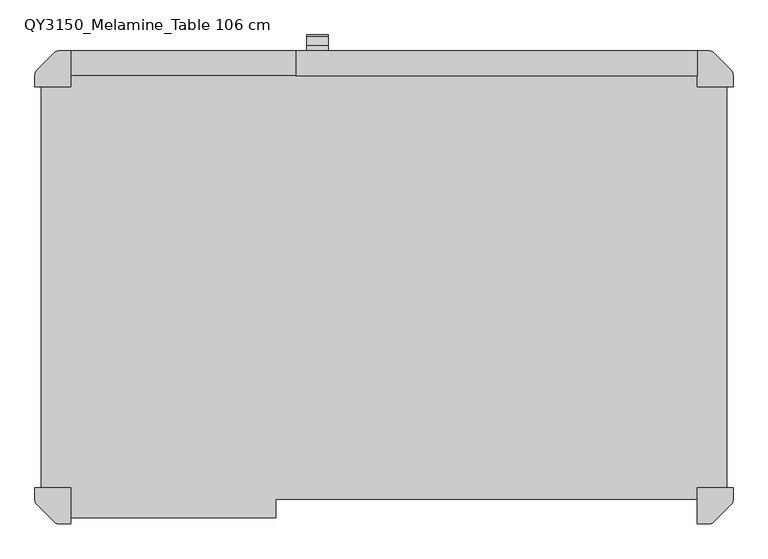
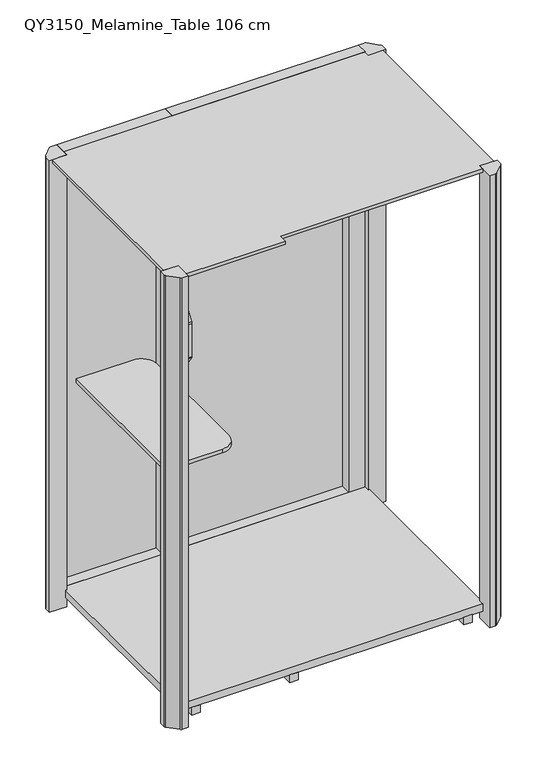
"""IFC4 building model written with IfcOpenShell, lengths in millimetres: furniture geometry, Qyos_150 : QY3150_Melamine_Table 106 cm."""

from ifc_helpers import new_model, si_unit, point, frame, frame_2d, origin, origin_with_axes, place, context, project, spatial, polyline, circle_curve, trimmed, segment, composite_curve, outline, extrude, source, transform, mapped, element, save
from ifc_brep_helpers import plane_surface, cylinder_surface, revolved_surface, advanced_brep


def qy3150_melamine_table_106_cm_0cf5cc71(model_context):
    return source(origin(), model_context, "Body", "SolidModel", [
        extrude(outline(composite_curve([segment(polyline([(-701.0, 358.0), (-441.0, 358.0)]), True, "CONTINUOUS"), segment(trimmed(circle_curve(frame_2d((-441.0, 288.0)), 70.0), [point((-441.0, 358.0))], [point((-371.0, 288.0))], False, "CARTESIAN"), True, "CONTINUOUS"), segment(polyline([(-371.0, 288.0), (-371.0, -288.0)]), True, "CONTINUOUS"), segment(trimmed(circle_curve(frame_2d((-441.0, -288.0)), 70.0), [point((-371.0, -288.0))], [point((-441.0, -358.0))], False, "CARTESIAN"), True, "CONTINUOUS"), segment(polyline([(-441.0, -358.0), (-701.0, -358.0), (-701.0, 358.0)]), True, "CONTINUOUS")], self_intersect=False)), frame((0.0, 0.0, 1147.0), z_axis=(0.0, 0.0, 1.0), x_axis=(1.0, 0.0, 0.0)), (0.0, 0.0, 1.0), 19.0),
        advanced_brep(
        [(-124.0102042, 525.6314016, 980.9779398), (-124.0102042, 537.1968679, 985.7672556), (-124.0102042, 557.5610872, 1017.1254034), (-124.0102042, 560.5, 1025.2), (-124.0102042, 560.5, 1186.1919919), (-124.0102042, 557.7819627, 1194.5572505), (-124.0102042, 537.162848, 1226.3079029), (-124.0102042, 525.6314016, 1230.9669096), (-124.0102042, 525.6314016, 1224.0702851), (-124.0102042, 536.4262787, 1221.4167571), (-124.0102042, 553.2020658, 1196.5456299), (-124.0102042, 557.6320377, 1173.7554001), (-124.0102042, 557.6320377, 1028.7554001), (-124.0102042, 555.0438473, 1019.0961419), (-124.0102042, 537.9469969, 991.7354618), (-124.0102042, 525.6314016, 985.9647191), (-171.9580619, 525.6314016, 1230.9669096), (-171.9580619, 537.162848, 1226.3079029), (-171.9580619, 557.7819627, 1194.5572505), (-171.9580619, 560.5, 1186.1919919), (-171.9580619, 560.5, 1025.2), (-171.9580619, 557.5610872, 1017.1254034), (-171.9580619, 537.1968679, 985.7672556), (-171.9580619, 525.6314016, 980.9779398), (-169.2887865, 525.6314016, 985.9647191), (-169.2887865, 525.6314016, 1224.0702851), (-169.2887865, 537.9469969, 991.7354618), (-169.2887865, 555.0438473, 1019.0961419), (-169.2887865, 557.6320377, 1028.7554001), (-169.2887865, 557.6320377, 1173.7554001), (-169.2887865, 553.2020658, 1196.5456299), (-169.2887865, 536.4262787, 1221.4167571)],
        [
            (0, 1, circle_curve(frame((-124.0102042, 527.6091735, 992.560998), z_axis=(1.0, 0.0, 0.0), x_axis=(0.0, 1.0, 0.0)), 11.7506945)),
            (1, 2, circle_curve(frame((-124.0102042, 160.5394908, 1252.6628295), z_axis=(1.0, 0.0, 0.0), x_axis=(0.0, 1.0, 0.0)), 461.6319174)),
            (2, 3, circle_curve(frame((-124.0102042, 513.525418, 1037.7252129), z_axis=(1.0, 0.0, 0.0), x_axis=(0.0, 1.0, 0.0)), 48.615762)),
            (3, 4),
            (4, 5, circle_curve(frame((-124.0102042, 541.7589098, 1184.7268438), z_axis=(1.0, 0.0, 0.0), x_axis=(0.0, 1.0, 0.0)), 18.7982744)),
            (5, 6, circle_curve(frame((-124.0102042, -71.0762231, 808.7424006), z_axis=(1.0, 0.0, 0.0), x_axis=(0.0, 1.0, 0.0)), 737.777552)),
            (6, 7, circle_curve(frame((-124.0102042, 527.4087289, 1218.7657801), z_axis=(1.0, 0.0, 0.0), x_axis=(0.0, 1.0, 0.0)), 12.3299009)),
            (7, 8),
            (8, 9, circle_curve(frame((-124.0102042, 525.6314016, 1200.7860796), z_axis=(-1.0, 0.0, 0.0), x_axis=(0.0, 1.0, 0.0)), 23.2842055)),
            (9, 10, circle_curve(frame((-124.0102042, 812.3576761, 1389.4415655), z_axis=(1.0, 0.0, 0.0), x_axis=(0.0, 1.0, 0.0)), 323.0641922)),
            (10, 11, circle_curve(frame((-124.0102042, 496.7942676, 1173.7554001), z_axis=(-1.0, 0.0, 0.0), x_axis=(0.0, 1.0, 0.0)), 60.8377701)),
            (11, 12),
            (12, 13, circle_curve(frame((-124.0102042, 540.0644692, 1028.286235), z_axis=(-1.0, 0.0, 0.0), x_axis=(0.0, 1.0, 0.0)), 17.5738323)),
            (13, 14, circle_curve(frame((-124.0102042, -1120.4570487, 2047.0433119), z_axis=(-1.0, 0.0, 0.0), x_axis=(0.0, 1.0, 0.0)), 1965.7005461)),
            (14, 15, circle_curve(frame((-124.0102042, 525.4805644, 1002.3136249), z_axis=(-1.0, 0.0, 0.0), x_axis=(0.0, 1.0, 0.0)), 16.3496016)),
            (15, 0),
            (16, 17, circle_curve(frame((-171.9580619, 527.4087289, 1218.7657801), z_axis=(-1.0, 0.0, 0.0), x_axis=(0.0, 1.0, 0.0)), 12.3299009)),
            (17, 18, circle_curve(frame((-171.9580619, -71.0762231, 808.7424006), z_axis=(-1.0, 0.0, 0.0), x_axis=(0.0, 1.0, 0.0)), 737.777552)),
            (18, 19, circle_curve(frame((-171.9580619, 541.7589098, 1184.7268438), z_axis=(-1.0, 0.0, 0.0), x_axis=(0.0, 1.0, 0.0)), 18.7982744)),
            (19, 20),
            (20, 21, circle_curve(frame((-171.9580619, 513.525418, 1037.7252129), z_axis=(-1.0, 0.0, 0.0), x_axis=(0.0, 1.0, 0.0)), 48.615762)),
            (21, 22, circle_curve(frame((-171.9580619, 160.5394908, 1252.6628295), z_axis=(-1.0, 0.0, 0.0), x_axis=(0.0, 1.0, 0.0)), 461.6319174)),
            (22, 23, circle_curve(frame((-171.9580619, 527.6091735, 992.560998), z_axis=(-1.0, 0.0, 0.0), x_axis=(0.0, 1.0, 0.0)), 11.7506945)),
            (23, 16),
            (23, 0),
            (15, 24),
            (24, 25),
            (25, 8),
            (7, 16),
            (22, 1),
            (21, 2),
            (20, 3),
            (19, 4),
            (18, 5),
            (17, 6),
            (26, 27, circle_curve(frame((-169.2887865, -1120.4570487, 2047.0433119), z_axis=(1.0, 0.0, 0.0), x_axis=(0.0, 1.0, 0.0)), 1965.7005461)),
            (27, 28, circle_curve(frame((-169.2887865, 540.0644692, 1028.286235), z_axis=(1.0, 0.0, 0.0), x_axis=(0.0, 1.0, 0.0)), 17.5738323)),
            (28, 29),
            (29, 30, circle_curve(frame((-169.2887865, 496.7942676, 1173.7554001), z_axis=(1.0, 0.0, 0.0), x_axis=(0.0, 1.0, 0.0)), 60.8377701)),
            (30, 31, circle_curve(frame((-169.2887865, 812.3576761, 1389.4415655), z_axis=(-1.0, 0.0, 0.0), x_axis=(0.0, 1.0, 0.0)), 323.0641922)),
            (31, 25, circle_curve(frame((-169.2887865, 525.6314016, 1200.7860796), z_axis=(1.0, 0.0, 0.0), x_axis=(0.0, 1.0, 0.0)), 23.2842055)),
            (24, 26, circle_curve(frame((-169.2887865, 525.4805644, 1002.3136249), z_axis=(1.0, 0.0, 0.0), x_axis=(0.0, 1.0, 0.0)), 16.3496016)),
            (14, 26),
            (13, 27),
            (12, 28),
            (11, 29),
            (10, 30),
            (9, 31),
        ],
        [
            plane_surface(frame((-124.0102042, 525.6314016, 980.9779398), z_axis=(1.0, 0.0, 0.0), x_axis=(0.0, 0.0, -1.0))),
            plane_surface(frame((-171.9580619, 525.6314016, 980.9779398), z_axis=(-1.0, 0.0, 0.0), x_axis=(0.0, 0.0, 1.0))),
            plane_surface(frame((-124.0102042, 525.6314016, 1230.9669096), z_axis=(0.0, -1.0, 0.0), x_axis=(-1.0, 0.0, 0.0))),
            cylinder_surface(frame((-171.9580619, 527.6091735, 992.560998), z_axis=(1.0, 0.0, 0.0), x_axis=(0.0, 1.0, 0.0)), 11.7506945),
            cylinder_surface(frame((-171.9580619, 160.5394908, 1252.6628295), z_axis=(1.0, 0.0, 0.0), x_axis=(0.0, 1.0, 0.0)), 461.6319174),
            cylinder_surface(frame((-171.9580619, 513.525418, 1037.7252129), z_axis=(1.0, 0.0, 0.0), x_axis=(0.0, 1.0, 0.0)), 48.615762),
            plane_surface(frame((-124.0102042, 560.5, 1025.2), z_axis=(0.0, 1.0, 0.0), x_axis=(-1.0, 0.0, 0.0))),
            cylinder_surface(frame((-171.9580619, 541.7589098, 1184.7268438), z_axis=(1.0, 0.0, 0.0), x_axis=(0.0, 1.0, 0.0)), 18.7982744),
            cylinder_surface(frame((-171.9580619, -71.0762231, 808.7424006), z_axis=(1.0, 0.0, 0.0), x_axis=(0.0, 1.0, 0.0)), 737.777552),
            cylinder_surface(frame((-171.9580619, 527.4087289, 1218.7657801), z_axis=(1.0, 0.0, 0.0), x_axis=(0.0, 1.0, 0.0)), 12.3299009),
            plane_surface(frame((-169.2887865, 511.7185794, 1224.0702851), z_axis=(1.0, 0.0, 0.0), x_axis=(0.0, 0.0, 1.0))),
            revolved_surface(polyline([(-124.0102042, 541.8301660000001, 1002.3136249), (-169.2887865, 541.8301660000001, 1002.3136249)]), (-169.2887865, 525.4805644, 1002.3136249), (1.0, 0.0, 0.0)),
            revolved_surface(polyline([(-124.0102042, 845.2434974, 2047.0433119), (-169.2887865, 845.2434974, 2047.0433119)]), (-169.2887865, -1120.4570487, 2047.0433119), (1.0, 0.0, 0.0)),
            revolved_surface(polyline([(-124.0102042, 557.6383015, 1028.286235), (-169.2887865, 557.6383015, 1028.286235)]), (-169.2887865, 540.0644692, 1028.286235), (1.0, 0.0, 0.0)),
            plane_surface(frame((-116.8041752, 557.6320377, 1028.7554001), z_axis=(0.0, -1.0, 0.0), x_axis=(-1.0, 0.0, 0.0))),
            revolved_surface(polyline([(-124.0102042, 557.6320377, 1173.7554001), (-169.2887865, 557.6320377, 1173.7554001)]), (-169.2887865, 496.7942676, 1173.7554001), (1.0, 0.0, 0.0)),
            cylinder_surface(frame((-169.2887865, 812.3576761, 1389.4415655), z_axis=(-1.0, 0.0, 0.0), x_axis=(0.0, 1.0, 0.0)), 323.0641922),
            revolved_surface(polyline([(-124.0102042, 548.9156071, 1200.7860796), (-169.2887865, 548.9156071, 1200.7860796)]), (-169.2887865, 525.6314016, 1200.7860796), (1.0, 0.0, 0.0)),
        ],
        [
            (0, [[1, 2, 3, 4, 5, 6, 7, 8, 9, 10, 11, 12, 13, 14, 15, 16]]),
            (1, [[17, 18, 19, 20, 21, 22, 23, 24]]),
            (2, [[-24, 25, -16, 26, 27, 28, -8, 29]]),
            (3, [[-1, -25, -23, 30]]),
            (4, [[-2, -30, -22, 31]]),
            (5, [[-3, -31, -21, 32]]),
            (6, [[-4, -32, -20, 33]]),
            (7, [[-5, -33, -19, 34]]),
            (8, [[-6, -34, -18, 35]]),
            (9, [[-7, -35, -17, -29]]),
            (10, [[36, 37, 38, 39, 40, 41, -27, 42]]),
            (11, [[-42, -26, -15, 43]]),
            (12, [[-36, -43, -14, 44]]),
            (13, [[-37, -44, -13, 45]]),
            (14, [[-38, -45, -12, 46]]),
            (15, [[-39, -46, -11, 47]]),
            (16, [[-40, -47, -10, 48]]),
            (17, [[-41, -48, -9, -28]]),
        ],
    ),
        extrude(outline(composite_curve([segment(polyline([(1230.9669096, -127.0104804), (1230.9669096, -166.9737674)]), True, "CONTINUOUS"), segment(trimmed(circle_curve(frame_2d((1225.973762, -166.9737674)), 4.9931477), [point((1230.9669096, -166.9737674))], [point((1225.973762, -171.966915))], False, "CARTESIAN"), True, "CONTINUOUS"), segment(polyline([(1225.973762, -171.966915), (985.9710874, -171.966915)]), True, "CONTINUOUS"), segment(trimmed(circle_curve(frame_2d((985.9710874, -166.9737674)), 4.9931477), [point((985.9710874, -171.966915))], [point((980.9779398, -166.9737674))], False, "CARTESIAN"), True, "CONTINUOUS"), segment(polyline([(980.9779398, -166.9737674), (980.9779398, -127.008286)]), True, "CONTINUOUS"), segment(trimmed(circle_curve(frame_2d((983.9760215, -127.008286)), 2.9980817), [point((980.9779398, -127.008286))], [point((983.9760215, -124.0102042))], False, "CARTESIAN"), True, "CONTINUOUS"), segment(polyline([(983.9760215, -124.0102042), (985.9777208, -124.0102042)]), True, "CONTINUOUS"), segment(trimmed(circle_curve(frame_2d((985.9777208, -126.2607973)), 2.2505931), [point((985.9777208, -124.0102042))], [point((988.1941223, -125.8699859))], False, "CARTESIAN"), True, "CONTINUOUS"), segment(trimmed(circle_curve(frame_2d((1002.686839, -125.065358)), 14.5150358), [point((988.1941223, -125.8699859))], [point((999.6402401, -139.2570632))], True, "CARTESIAN"), True, "CONTINUOUS"), segment(trimmed(circle_curve(frame_2d((999.3564071, -147.27634)), 8.0242982), [point((999.6402401, -139.2570632))], [point((1007.3803501, -147.3518321))], False, "CARTESIAN"), True, "CONTINUOUS"), segment(trimmed(circle_curve(frame_2d((984.8527266, -150.8883916)), 22.803532), [point((1007.3803501, -147.3518321))], [point((1007.3098217, -154.8481834))], False, "CARTESIAN"), True, "CONTINUOUS"), segment(trimmed(circle_curve(frame_2d((1018.7344643, -156.8626561)), 11.600886), [point((1007.3098217, -154.8481834))], [point((1018.7344643, -168.4635421))], True, "CARTESIAN"), True, "CONTINUOUS"), segment(polyline([(1018.7344643, -168.4635421), (1193.2103851, -168.4635421)]), True, "CONTINUOUS"), segment(trimmed(circle_curve(frame_2d((1193.2103851, -156.4965825)), 11.9669596), [point((1193.2103851, -168.4635421))], [point((1205.1773447, -156.4965825))], True, "CARTESIAN"), True, "CONTINUOUS"), segment(polyline([(1205.1773447, -156.4965825), (1205.1773447, -147.9646776)]), True, "CONTINUOUS"), segment(trimmed(circle_curve(frame_2d((1213.8757406, -147.9646776)), 8.6983958), [point((1205.1773447, -147.9646776))], [point((1212.36528, -139.3984299))], False, "CARTESIAN"), True, "CONTINUOUS"), segment(trimmed(circle_curve(frame_2d((1209.9037954, -125.4386571)), 14.1751248), [point((1212.36528, -139.3984299))], [point((1224.0702851, -125.9333618))], True, "CARTESIAN"), True, "CONTINUOUS"), segment(trimmed(circle_curve(frame_2d((1225.9934427, -125.9333618)), 1.9231576), [point((1224.0702851, -125.9333618))], [point((1225.9934427, -124.0102042))], False, "CARTESIAN"), True, "CONTINUOUS"), segment(polyline([(1225.9934427, -124.0102042), (1227.9666334, -124.0102042)]), True, "CONTINUOUS"), segment(trimmed(circle_curve(frame_2d((1227.9666334, -127.0104804)), 3.0002762), [point((1227.9666334, -124.0102042))], [point((1230.9669096, -127.0104804))], False, "CARTESIAN"), True, "CONTINUOUS")], self_intersect=False)), frame((0.0, 525.0, 0.0), z_axis=(0.0, 1.0, 0.0), x_axis=(0.0, 0.0, 1.0)), (0.0, 0.0, 1.0), 0.6314016),
        advanced_brep(
        [(-124.0102042, 469.3642803, 980.9779398), (-124.0102042, 469.3642803, 985.9647191), (-124.0102042, 457.048685, 991.7354618), (-124.0102042, 439.9518346, 1019.0961419), (-124.0102042, 437.3636441, 1028.7554001), (-124.0102042, 437.3636441, 1173.7554001), (-124.0102042, 441.7936161, 1196.5456299), (-124.0102042, 458.5694032, 1221.4167571), (-124.0102042, 469.3642803, 1224.0702851), (-124.0102042, 469.3642803, 1230.9669096), (-124.0102042, 457.8328339, 1226.3079029), (-124.0102042, 437.2137192, 1194.5572505), (-124.0102042, 434.4956819, 1186.1919919), (-124.0102042, 434.4956819, 1025.2), (-124.0102042, 437.4345947, 1017.1254034), (-124.0102042, 457.798814, 985.7672556), (-171.9580619, 469.3642803, 1230.9669096), (-171.9580619, 469.3642803, 980.9779398), (-171.9580619, 457.798814, 985.7672556), (-171.9580619, 437.4345947, 1017.1254034), (-171.9580619, 434.4956819, 1025.2), (-171.9580619, 434.4956819, 1186.1919919), (-171.9580619, 437.2137192, 1194.5572505), (-171.9580619, 457.8328339, 1226.3079029), (-169.2887865, 469.3642803, 1224.0702851), (-169.2887865, 469.3642803, 985.9647191), (-169.2887865, 457.048685, 991.7354618), (-169.2887865, 458.5694032, 1221.4167571), (-169.2887865, 441.7936161, 1196.5456299), (-169.2887865, 437.3636441, 1173.7554001), (-169.2887865, 437.3636441, 1028.7554001), (-169.2887865, 439.9518346, 1019.0961419)],
        [
            (0, 1),
            (1, 2, circle_curve(frame((-124.0102042, 469.5151175, 1002.3136249), z_axis=(-1.0, 0.0, 0.0), x_axis=(0.0, -1.0, 0.0)), 16.3496016)),
            (2, 3, circle_curve(frame((-124.0102042, 2115.4527306, 2047.0433119), z_axis=(-1.0, 0.0, 0.0), x_axis=(0.0, -1.0, 0.0)), 1965.7005461)),
            (3, 4, circle_curve(frame((-124.0102042, 454.9312127, 1028.286235), z_axis=(-1.0, 0.0, 0.0), x_axis=(0.0, -1.0, 0.0)), 17.5738323)),
            (4, 5),
            (5, 6, circle_curve(frame((-124.0102042, 498.2014142, 1173.7554001), z_axis=(-1.0, 0.0, 0.0), x_axis=(0.0, -1.0, 0.0)), 60.8377701)),
            (6, 7, circle_curve(frame((-124.0102042, 182.6380058, 1389.4415655), z_axis=(1.0, 0.0, 0.0), x_axis=(0.0, -1.0, 0.0)), 323.0641922)),
            (7, 8, circle_curve(frame((-124.0102042, 469.3642803, 1200.7860796), z_axis=(-1.0, 0.0, 0.0), x_axis=(0.0, -1.0, 0.0)), 23.2842055)),
            (8, 9),
            (9, 10, circle_curve(frame((-124.0102042, 467.586953, 1218.7657801), z_axis=(1.0, 0.0, 0.0), x_axis=(0.0, -1.0, 0.0)), 12.3299009)),
            (10, 11, circle_curve(frame((-124.0102042, 1066.071905, 808.7424006), z_axis=(1.0, 0.0, 0.0), x_axis=(0.0, -1.0, 0.0)), 737.777552)),
            (11, 12, circle_curve(frame((-124.0102042, 453.236772, 1184.7268438), z_axis=(1.0, 0.0, 0.0), x_axis=(0.0, -1.0, 0.0)), 18.7982744)),
            (12, 13),
            (13, 14, circle_curve(frame((-124.0102042, 481.4702639, 1037.7252129), z_axis=(1.0, 0.0, 0.0), x_axis=(0.0, -1.0, 0.0)), 48.615762)),
            (14, 15, circle_curve(frame((-124.0102042, 834.4561911, 1252.6628295), z_axis=(1.0, 0.0, 0.0), x_axis=(0.0, -1.0, 0.0)), 461.6319174)),
            (15, 0, circle_curve(frame((-124.0102042, 467.3865084, 992.560998), z_axis=(1.0, 0.0, 0.0), x_axis=(0.0, -1.0, 0.0)), 11.7506945)),
            (16, 17),
            (17, 18, circle_curve(frame((-171.9580619, 467.3865084, 992.560998), z_axis=(-1.0, 0.0, 0.0), x_axis=(0.0, -1.0, 0.0)), 11.7506945)),
            (18, 19, circle_curve(frame((-171.9580619, 834.4561911, 1252.6628295), z_axis=(-1.0, 0.0, 0.0), x_axis=(0.0, -1.0, 0.0)), 461.6319174)),
            (19, 20, circle_curve(frame((-171.9580619, 481.4702639, 1037.7252129), z_axis=(-1.0, 0.0, 0.0), x_axis=(0.0, -1.0, 0.0)), 48.615762)),
            (20, 21),
            (21, 22, circle_curve(frame((-171.9580619, 453.236772, 1184.7268438), z_axis=(-1.0, 0.0, 0.0), x_axis=(0.0, -1.0, 0.0)), 18.7982744)),
            (22, 23, circle_curve(frame((-171.9580619, 1066.071905, 808.7424006), z_axis=(-1.0, 0.0, 0.0), x_axis=(0.0, -1.0, 0.0)), 737.777552)),
            (23, 16, circle_curve(frame((-171.9580619, 467.586953, 1218.7657801), z_axis=(-1.0, 0.0, 0.0), x_axis=(0.0, -1.0, 0.0)), 12.3299009)),
            (16, 9),
            (8, 24),
            (24, 25),
            (25, 1),
            (0, 17),
            (15, 18),
            (14, 19),
            (13, 20),
            (12, 21),
            (11, 22),
            (10, 23),
            (26, 25, circle_curve(frame((-169.2887865, 469.5151175, 1002.3136249), z_axis=(1.0, 0.0, 0.0), x_axis=(0.0, -1.0, 0.0)), 16.3496016)),
            (24, 27, circle_curve(frame((-169.2887865, 469.3642803, 1200.7860796), z_axis=(1.0, 0.0, 0.0), x_axis=(0.0, -1.0, 0.0)), 23.2842055)),
            (27, 28, circle_curve(frame((-169.2887865, 182.6380058, 1389.4415655), z_axis=(-1.0, 0.0, 0.0), x_axis=(0.0, -1.0, 0.0)), 323.0641922)),
            (28, 29, circle_curve(frame((-169.2887865, 498.2014142, 1173.7554001), z_axis=(1.0, 0.0, 0.0), x_axis=(0.0, -1.0, 0.0)), 60.8377701)),
            (29, 30),
            (30, 31, circle_curve(frame((-169.2887865, 454.9312127, 1028.286235), z_axis=(1.0, 0.0, 0.0), x_axis=(0.0, -1.0, 0.0)), 17.5738323)),
            (31, 26, circle_curve(frame((-169.2887865, 2115.4527306, 2047.0433119), z_axis=(1.0, 0.0, 0.0), x_axis=(0.0, -1.0, 0.0)), 1965.7005461)),
            (26, 2),
            (31, 3),
            (30, 4),
            (29, 5),
            (28, 6),
            (27, 7),
        ],
        [
            plane_surface(frame((-124.0102042, 469.3642803, 980.9779398), z_axis=(1.0, 0.0, 0.0), x_axis=(0.0, 0.0, -1.0))),
            plane_surface(frame((-171.9580619, 469.3642803, 980.9779398), z_axis=(-1.0, 0.0, 0.0), x_axis=(0.0, 0.0, 1.0))),
            plane_surface(frame((-124.0102042, 469.3642803, 1230.9669096), z_axis=(0.0, 1.0, 0.0), x_axis=(-1.0, 0.0, 0.0))),
            cylinder_surface(frame((-171.9580619, 467.3865084, 992.560998), z_axis=(1.0, 0.0, 0.0), x_axis=(0.0, -1.0, 0.0)), 11.7506945),
            cylinder_surface(frame((-171.9580619, 834.4561911, 1252.6628295), z_axis=(1.0, 0.0, 0.0), x_axis=(0.0, -1.0, 0.0)), 461.6319174),
            cylinder_surface(frame((-171.9580619, 481.4702639, 1037.7252129), z_axis=(1.0, 0.0, 0.0), x_axis=(0.0, -1.0, 0.0)), 48.615762),
            plane_surface(frame((-124.0102042, 434.4956819, 1025.2), z_axis=(0.0, -1.0, 0.0), x_axis=(-1.0, 0.0, 0.0))),
            cylinder_surface(frame((-171.9580619, 453.236772, 1184.7268438), z_axis=(1.0, 0.0, 0.0), x_axis=(0.0, -1.0, 0.0)), 18.7982744),
            cylinder_surface(frame((-171.9580619, 1066.071905, 808.7424006), z_axis=(1.0, 0.0, 0.0), x_axis=(0.0, -1.0, 0.0)), 737.777552),
            cylinder_surface(frame((-171.9580619, 467.586953, 1218.7657801), z_axis=(1.0, 0.0, 0.0), x_axis=(0.0, -1.0, 0.0)), 12.3299009),
            plane_surface(frame((-169.2887865, 483.2771024, 1224.0702851), z_axis=(1.0, 0.0, 0.0), x_axis=(0.0, 0.0, 1.0))),
            revolved_surface(polyline([(-124.0102042, 453.16551589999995, 1002.3136249), (-169.2887865, 453.16551589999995, 1002.3136249)]), (-169.2887865, 469.5151175, 1002.3136249), (1.0, 0.0, 0.0)),
            revolved_surface(polyline([(-124.0102042, 149.75218449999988, 2047.0433119), (-169.2887865, 149.75218449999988, 2047.0433119)]), (-169.2887865, 2115.4527306, 2047.0433119), (1.0, 0.0, 0.0)),
            revolved_surface(polyline([(-124.0102042, 437.3573804, 1028.286235), (-169.2887865, 437.3573804, 1028.286235)]), (-169.2887865, 454.9312127, 1028.286235), (1.0, 0.0, 0.0)),
            plane_surface(frame((-116.8041752, 437.3636441, 1028.7554001), z_axis=(0.0, 1.0, 0.0), x_axis=(-1.0, 0.0, 0.0))),
            revolved_surface(polyline([(-124.0102042, 437.3636441, 1173.7554001), (-169.2887865, 437.3636441, 1173.7554001)]), (-169.2887865, 498.2014142, 1173.7554001), (1.0, 0.0, 0.0)),
            cylinder_surface(frame((-169.2887865, 182.6380058, 1389.4415655), z_axis=(-1.0, 0.0, 0.0), x_axis=(0.0, -1.0, 0.0)), 323.0641922),
            revolved_surface(polyline([(-124.0102042, 446.08007480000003, 1200.7860796), (-169.2887865, 446.08007480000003, 1200.7860796)]), (-169.2887865, 469.3642803, 1200.7860796), (1.0, 0.0, 0.0)),
        ],
        [
            (0, [[1, 2, 3, 4, 5, 6, 7, 8, 9, 10, 11, 12, 13, 14, 15, 16]]),
            (1, [[17, 18, 19, 20, 21, 22, 23, 24]]),
            (2, [[25, -9, 26, 27, 28, -1, 29, -17]]),
            (3, [[30, -18, -29, -16]]),
            (4, [[31, -19, -30, -15]]),
            (5, [[32, -20, -31, -14]]),
            (6, [[33, -21, -32, -13]]),
            (7, [[34, -22, -33, -12]]),
            (8, [[35, -23, -34, -11]]),
            (9, [[-25, -24, -35, -10]]),
            (10, [[36, -27, 37, 38, 39, 40, 41, 42]]),
            (11, [[43, -2, -28, -36]]),
            (12, [[44, -3, -43, -42]]),
            (13, [[45, -4, -44, -41]]),
            (14, [[46, -5, -45, -40]]),
            (15, [[47, -6, -46, -39]]),
            (16, [[48, -7, -47, -38]]),
            (17, [[-26, -8, -48, -37]]),
        ],
    ),
        extrude(outline(composite_curve([segment(polyline([(1230.9669096, -127.0104804), (1230.9669096, -166.9737674)]), True, "CONTINUOUS"), segment(trimmed(circle_curve(frame_2d((1225.973762, -166.9737674)), 4.9931477), [point((1230.9669096, -166.9737674))], [point((1225.973762, -171.966915))], False, "CARTESIAN"), True, "CONTINUOUS"), segment(polyline([(1225.973762, -171.966915), (985.9710874, -171.966915)]), True, "CONTINUOUS"), segment(trimmed(circle_curve(frame_2d((985.9710874, -166.9737674)), 4.9931477), [point((985.9710874, -171.966915))], [point((980.9779398, -166.9737674))], False, "CARTESIAN"), True, "CONTINUOUS"), segment(polyline([(980.9779398, -166.9737674), (980.9779398, -127.008286)]), True, "CONTINUOUS"), segment(trimmed(circle_curve(frame_2d((983.9760215, -127.008286)), 2.9980817), [point((980.9779398, -127.008286))], [point((983.9760215, -124.0102042))], False, "CARTESIAN"), True, "CONTINUOUS"), segment(polyline([(983.9760215, -124.0102042), (985.9777208, -124.0102042)]), True, "CONTINUOUS"), segment(trimmed(circle_curve(frame_2d((985.9777208, -126.2607973)), 2.2505931), [point((985.9777208, -124.0102042))], [point((988.1941223, -125.8699859))], False, "CARTESIAN"), True, "CONTINUOUS"), segment(trimmed(circle_curve(frame_2d((1002.686839, -125.065358)), 14.5150358), [point((988.1941223, -125.8699859))], [point((999.6402401, -139.2570632))], True, "CARTESIAN"), True, "CONTINUOUS"), segment(trimmed(circle_curve(frame_2d((999.3564071, -147.27634)), 8.0242982), [point((999.6402401, -139.2570632))], [point((1007.3803501, -147.3518321))], False, "CARTESIAN"), True, "CONTINUOUS"), segment(trimmed(circle_curve(frame_2d((984.8527266, -150.8883916)), 22.803532), [point((1007.3803501, -147.3518321))], [point((1007.3098217, -154.8481834))], False, "CARTESIAN"), True, "CONTINUOUS"), segment(trimmed(circle_curve(frame_2d((1018.7344643, -156.8626561)), 11.600886), [point((1007.3098217, -154.8481834))], [point((1018.7344643, -168.4635421))], True, "CARTESIAN"), True, "CONTINUOUS"), segment(polyline([(1018.7344643, -168.4635421), (1193.2103851, -168.4635421)]), True, "CONTINUOUS"), segment(trimmed(circle_curve(frame_2d((1193.2103851, -156.4965825)), 11.9669596), [point((1193.2103851, -168.4635421))], [point((1205.1773447, -156.4965825))], True, "CARTESIAN"), True, "CONTINUOUS"), segment(polyline([(1205.1773447, -156.4965825), (1205.1773447, -147.9646776)]), True, "CONTINUOUS"), segment(trimmed(circle_curve(frame_2d((1213.8757406, -147.9646776)), 8.6983958), [point((1205.1773447, -147.9646776))], [point((1212.36528, -139.3984299))], False, "CARTESIAN"), True, "CONTINUOUS"), segment(trimmed(circle_curve(frame_2d((1209.9037954, -125.4386571)), 14.1751248), [point((1212.36528, -139.3984299))], [point((1224.0702851, -125.9333618))], True, "CARTESIAN"), True, "CONTINUOUS"), segment(trimmed(circle_curve(frame_2d((1225.9934427, -125.9333618)), 1.9231576), [point((1224.0702851, -125.9333618))], [point((1225.9934427, -124.0102042))], False, "CARTESIAN"), True, "CONTINUOUS"), segment(polyline([(1225.9934427, -124.0102042), (1227.9666334, -124.0102042)]), True, "CONTINUOUS"), segment(trimmed(circle_curve(frame_2d((1227.9666334, -127.0104804)), 3.0002762), [point((1227.9666334, -124.0102042))], [point((1230.9669096, -127.0104804))], False, "CARTESIAN"), True, "CONTINUOUS")], self_intersect=False)), frame((0.0, 469.3642803, 0.0), z_axis=(0.0, 1.0, 0.0), x_axis=(0.0, 0.0, 1.0)), (0.0, 0.0, 1.0), 0.6314016),
        extrude(outline(polyline([(619.5749028, 525.0), (619.5749028, 520.0), (-119.4250972, 520.0), (-119.4250972, 525.0), (619.5749028, 525.0)])), frame((0.0, 0.0, 82.0), z_axis=(0.0, 0.0, 1.0), x_axis=(1.0, 0.0, 0.0)), (0.0, 0.0, 1.0), 2040.1),
        extrude(outline(polyline([(10.0, -194.9250972), (10.0, 695.0749028), (2202.1, 695.0749028), (2202.1, -194.9250972), (10.0, -194.9250972)]), holes=[polyline([(82.0, 619.5749028), (82.0, -119.4250972), (2122.1, -119.4250972), (2122.1, 619.5749028), (82.0, 619.5749028)])]), frame((0.0, 469.9956819, 0.0), z_axis=(0.0, 1.0, 0.0), x_axis=(0.0, 0.0, 1.0)), (0.0, 0.0, 1.0), 55.0043181),
        advanced_brep(
        [(603.8585356, 382.0, 0.0), (627.0, 382.0, 0.0), (650.1414644, 382.0, 0.0), (603.8585356, 382.0, 7.0), (650.1414644, 382.0, 7.0), (617.3615446, 382.0, 7.0), (636.6384554, 382.0, 7.0), (617.3615446, 382.0, 17.0), (636.6384554, 382.0, 17.0), (627.0, 382.0, 17.0)],
        [
            (0, 1),
            (1, 2),
            (2, 0, circle_curve(frame((627.0, 382.0, 0.0), z_axis=(0.0, 0.0, -1.0), x_axis=(1.0, 0.0, 0.0)), 23.1414644)),
            (0, 2, circle_curve(frame((627.0, 382.0, 0.0), z_axis=(0.0, 0.0, -1.0), x_axis=(1.0, 0.0, 0.0)), 23.1414644)),
            (3, 0),
            (2, 4),
            (4, 3, circle_curve(frame((627.0, 382.0, 7.0), z_axis=(0.0, 0.0, -1.0), x_axis=(1.0, 0.0, 0.0)), 23.1414644)),
            (3, 4, circle_curve(frame((627.0, 382.0, 7.0), z_axis=(0.0, 0.0, -1.0), x_axis=(1.0, 0.0, 0.0)), 23.1414644)),
            (5, 3),
            (4, 6),
            (6, 5, circle_curve(frame((627.0, 382.0, 7.0), z_axis=(0.0, 0.0, -1.0), x_axis=(1.0, 0.0, 0.0)), 9.6384554)),
            (5, 6, circle_curve(frame((627.0, 382.0, 7.0), z_axis=(0.0, 0.0, -1.0), x_axis=(1.0, 0.0, 0.0)), 9.6384554)),
            (7, 5),
            (6, 8),
            (8, 7, circle_curve(frame((627.0, 382.0, 17.0), z_axis=(0.0, 0.0, -1.0), x_axis=(1.0, 0.0, 0.0)), 9.6384554)),
            (7, 8, circle_curve(frame((627.0, 382.0, 17.0), z_axis=(0.0, 0.0, -1.0), x_axis=(1.0, 0.0, 0.0)), 9.6384554)),
            (9, 7),
            (8, 9),
        ],
        [
            plane_surface(frame((627.0, 382.0, 0.0), z_axis=(0.0, 0.0, -1.0), x_axis=(1.0, 0.0, 0.0))),
            cylinder_surface(frame((627.0, 382.0, 1997.4144888), z_axis=(0.0, 0.0, 1.0), x_axis=(1.0, 0.0, 0.0)), 23.1414644),
            plane_surface(frame((627.0, 382.0, 7.0), z_axis=(0.0, 0.0, 1.0), x_axis=(1.0, 0.0, 0.0))),
            cylinder_surface(frame((627.0, 382.0, 1997.4144888), z_axis=(0.0, 0.0, 1.0), x_axis=(1.0, 0.0, 0.0)), 9.6384554),
            plane_surface(frame((627.0, 382.0, 17.0), z_axis=(0.0, 0.0, 1.0), x_axis=(1.0, 0.0, 0.0))),
        ],
        [
            (0, [[1, 2, 3]]),
            (0, [[-2, -1, 4]]),
            (1, [[5, -3, 6, 7]]),
            (1, [[-6, -4, -5, 8]]),
            (2, [[9, -7, 10, 11]]),
            (2, [[-10, -8, -9, 12]]),
            (3, [[13, -11, 14, 15]]),
            (3, [[-14, -12, -13, 16]]),
            (4, [[17, -15, 18]]),
            (4, [[-18, -16, -17]]),
        ],
    ),
        extrude(outline(composite_curve([segment(trimmed(circle_curve(frame_2d((627.0, 382.0)), 23.1414644), [point((603.8585356, 382.0))], [point((650.1414644, 382.0))], False, "CARTESIAN"), True, "CONTINUOUS"), segment(trimmed(circle_curve(frame_2d((627.0, 382.0)), 23.1414644), [point((650.1414644, 382.0))], [point((603.8585356, 382.0))], False, "CARTESIAN"), True, "CONTINUOUS")], self_intersect=False)), origin_with_axes(), (0.0, 0.0, 1.0), 7.0),
        advanced_brep(
        [(-198.1414644, 382.0, 0.0), (-175.0, 382.0, 0.0), (-151.8585356, 382.0, 0.0), (-198.1414644, 382.0, 7.0), (-151.8585356, 382.0, 7.0), (-184.6384554, 382.0, 7.0), (-165.3615446, 382.0, 7.0), (-184.6384554, 382.0, 17.0), (-165.3615446, 382.0, 17.0), (-175.0, 382.0, 17.0)],
        [
            (0, 1),
            (1, 2),
            (2, 0, circle_curve(frame((-175.0, 382.0, 0.0), z_axis=(0.0, 0.0, -1.0), x_axis=(1.0, 0.0, 0.0)), 23.1414644)),
            (0, 2, circle_curve(frame((-175.0, 382.0, 0.0), z_axis=(0.0, 0.0, -1.0), x_axis=(1.0, 0.0, 0.0)), 23.1414644)),
            (3, 0),
            (2, 4),
            (4, 3, circle_curve(frame((-175.0, 382.0, 7.0), z_axis=(0.0, 0.0, -1.0), x_axis=(1.0, 0.0, 0.0)), 23.1414644)),
            (3, 4, circle_curve(frame((-175.0, 382.0, 7.0), z_axis=(0.0, 0.0, -1.0), x_axis=(1.0, 0.0, 0.0)), 23.1414644)),
            (5, 3),
            (4, 6),
            (6, 5, circle_curve(frame((-175.0, 382.0, 7.0), z_axis=(0.0, 0.0, -1.0), x_axis=(1.0, 0.0, 0.0)), 9.6384554)),
            (5, 6, circle_curve(frame((-175.0, 382.0, 7.0), z_axis=(0.0, 0.0, -1.0), x_axis=(1.0, 0.0, 0.0)), 9.6384554)),
            (7, 5),
            (6, 8),
            (8, 7, circle_curve(frame((-175.0, 382.0, 17.0), z_axis=(0.0, 0.0, -1.0), x_axis=(1.0, 0.0, 0.0)), 9.6384554)),
            (7, 8, circle_curve(frame((-175.0, 382.0, 17.0), z_axis=(0.0, 0.0, -1.0), x_axis=(1.0, 0.0, 0.0)), 9.6384554)),
            (9, 7),
            (8, 9),
        ],
        [
            plane_surface(frame((-175.0, 382.0, 0.0), z_axis=(0.0, 0.0, -1.0), x_axis=(1.0, 0.0, 0.0))),
            cylinder_surface(frame((-175.0, 382.0, 1997.4144888), z_axis=(0.0, 0.0, 1.0), x_axis=(1.0, 0.0, 0.0)), 23.1414644),
            plane_surface(frame((-175.0, 382.0, 7.0), z_axis=(0.0, 0.0, 1.0), x_axis=(1.0, 0.0, 0.0))),
            cylinder_surface(frame((-175.0, 382.0, 1997.4144888), z_axis=(0.0, 0.0, 1.0), x_axis=(1.0, 0.0, 0.0)), 9.6384554),
            plane_surface(frame((-175.0, 382.0, 17.0), z_axis=(0.0, 0.0, 1.0), x_axis=(1.0, 0.0, 0.0))),
        ],
        [
            (0, [[1, 2, 3]]),
            (0, [[-2, -1, 4]]),
            (1, [[5, -3, 6, 7]]),
            (1, [[-6, -4, -5, 8]]),
            (2, [[9, -7, 10, 11]]),
            (2, [[-10, -8, -9, 12]]),
            (3, [[13, -11, 14, 15]]),
            (3, [[-14, -12, -13, 16]]),
            (4, [[17, -15, 18]]),
            (4, [[-18, -16, -17]]),
        ],
    ),
        extrude(outline(composite_curve([segment(trimmed(circle_curve(frame_2d((-175.0, 382.0)), 23.1414644), [point((-198.1414644, 382.0))], [point((-151.8585356, 382.0))], False, "CARTESIAN"), True, "CONTINUOUS"), segment(trimmed(circle_curve(frame_2d((-175.0, 382.0)), 23.1414644), [point((-151.8585356, 382.0))], [point((-198.1414644, 382.0))], False, "CARTESIAN"), True, "CONTINUOUS")], self_intersect=False)), origin_with_axes(), (0.0, 0.0, 1.0), 7.0),
        advanced_brep(
        [(-650.1414644, 382.0, 0.0), (-627.0, 382.0, 0.0), (-603.8585356, 382.0, 0.0), (-650.1414644, 382.0, 7.0), (-603.8585356, 382.0, 7.0), (-636.6384554, 382.0, 7.0), (-617.3615446, 382.0, 7.0), (-636.6384554, 382.0, 17.0), (-617.3615446, 382.0, 17.0), (-627.0, 382.0, 17.0)],
        [
            (0, 1),
            (1, 2),
            (2, 0, circle_curve(frame((-627.0, 382.0, 0.0), z_axis=(0.0, 0.0, -1.0), x_axis=(1.0, 0.0, 0.0)), 23.1414644)),
            (0, 2, circle_curve(frame((-627.0, 382.0, 0.0), z_axis=(0.0, 0.0, -1.0), x_axis=(1.0, 0.0, 0.0)), 23.1414644)),
            (3, 0),
            (2, 4),
            (4, 3, circle_curve(frame((-627.0, 382.0, 7.0), z_axis=(0.0, 0.0, -1.0), x_axis=(1.0, 0.0, 0.0)), 23.1414644)),
            (3, 4, circle_curve(frame((-627.0, 382.0, 7.0), z_axis=(0.0, 0.0, -1.0), x_axis=(1.0, 0.0, 0.0)), 23.1414644)),
            (5, 3),
            (4, 6),
            (6, 5, circle_curve(frame((-627.0, 382.0, 7.0), z_axis=(0.0, 0.0, -1.0), x_axis=(1.0, 0.0, 0.0)), 9.6384554)),
            (5, 6, circle_curve(frame((-627.0, 382.0, 7.0), z_axis=(0.0, 0.0, -1.0), x_axis=(1.0, 0.0, 0.0)), 9.6384554)),
            (7, 5),
            (6, 8),
            (8, 7, circle_curve(frame((-627.0, 382.0, 17.0), z_axis=(0.0, 0.0, -1.0), x_axis=(1.0, 0.0, 0.0)), 9.6384554)),
            (7, 8, circle_curve(frame((-627.0, 382.0, 17.0), z_axis=(0.0, 0.0, -1.0), x_axis=(1.0, 0.0, 0.0)), 9.6384554)),
            (9, 7),
            (8, 9),
        ],
        [
            plane_surface(frame((-627.0, 382.0, 0.0), z_axis=(0.0, 0.0, -1.0), x_axis=(1.0, 0.0, 0.0))),
            cylinder_surface(frame((-627.0, 382.0, 1997.4144888), z_axis=(0.0, 0.0, 1.0), x_axis=(1.0, 0.0, 0.0)), 23.1414644),
            plane_surface(frame((-627.0, 382.0, 7.0), z_axis=(0.0, 0.0, 1.0), x_axis=(1.0, 0.0, 0.0))),
            cylinder_surface(frame((-627.0, 382.0, 1997.4144888), z_axis=(0.0, 0.0, 1.0), x_axis=(1.0, 0.0, 0.0)), 9.6384554),
            plane_surface(frame((-627.0, 382.0, 17.0), z_axis=(0.0, 0.0, 1.0), x_axis=(1.0, 0.0, 0.0))),
        ],
        [
            (0, [[1, 2, 3]]),
            (0, [[-2, -1, 4]]),
            (1, [[5, -3, 6, 7]]),
            (1, [[-6, -4, -5, 8]]),
            (2, [[9, -7, 10, 11]]),
            (2, [[-10, -8, -9, 12]]),
            (3, [[13, -11, 14, 15]]),
            (3, [[-14, -12, -13, 16]]),
            (4, [[17, -15, 18]]),
            (4, [[-18, -16, -17]]),
        ],
    ),
        extrude(outline(composite_curve([segment(trimmed(circle_curve(frame_2d((-627.0, 382.0)), 23.1414644), [point((-650.1414644, 382.0))], [point((-603.8585356, 382.0))], False, "CARTESIAN"), True, "CONTINUOUS"), segment(trimmed(circle_curve(frame_2d((-627.0, 382.0)), 23.1414644), [point((-603.8585356, 382.0))], [point((-650.1414644, 382.0))], False, "CARTESIAN"), True, "CONTINUOUS")], self_intersect=False)), origin_with_axes(), (0.0, 0.0, 1.0), 7.0),
        advanced_brep(
        [(-650.1414644, -382.0, 0.0), (-627.0, -382.0, 0.0), (-603.8585356, -382.0, 0.0), (-650.1414644, -382.0, 7.0), (-603.8585356, -382.0, 7.0), (-636.6384554, -382.0, 7.0), (-617.3615446, -382.0, 7.0), (-636.6384554, -382.0, 17.0), (-617.3615446, -382.0, 17.0), (-627.0, -382.0, 17.0)],
        [
            (0, 1),
            (1, 2),
            (2, 0, circle_curve(frame((-627.0, -382.0, 0.0), z_axis=(0.0, 0.0, -1.0), x_axis=(1.0, 0.0, 0.0)), 23.1414644)),
            (0, 2, circle_curve(frame((-627.0, -382.0, 0.0), z_axis=(0.0, 0.0, -1.0), x_axis=(1.0, 0.0, 0.0)), 23.1414644)),
            (3, 0),
            (2, 4),
            (4, 3, circle_curve(frame((-627.0, -382.0, 7.0), z_axis=(0.0, 0.0, -1.0), x_axis=(1.0, 0.0, 0.0)), 23.1414644)),
            (3, 4, circle_curve(frame((-627.0, -382.0, 7.0), z_axis=(0.0, 0.0, -1.0), x_axis=(1.0, 0.0, 0.0)), 23.1414644)),
            (5, 3),
            (4, 6),
            (6, 5, circle_curve(frame((-627.0, -382.0, 7.0), z_axis=(0.0, 0.0, -1.0), x_axis=(1.0, 0.0, 0.0)), 9.6384554)),
            (5, 6, circle_curve(frame((-627.0, -382.0, 7.0), z_axis=(0.0, 0.0, -1.0), x_axis=(1.0, 0.0, 0.0)), 9.6384554)),
            (7, 5),
            (6, 8),
            (8, 7, circle_curve(frame((-627.0, -382.0, 17.0), z_axis=(0.0, 0.0, -1.0), x_axis=(1.0, 0.0, 0.0)), 9.6384554)),
            (7, 8, circle_curve(frame((-627.0, -382.0, 17.0), z_axis=(0.0, 0.0, -1.0), x_axis=(1.0, 0.0, 0.0)), 9.6384554)),
            (9, 7),
            (8, 9),
        ],
        [
            plane_surface(frame((-627.0, -382.0, 0.0), z_axis=(0.0, 0.0, -1.0), x_axis=(1.0, 0.0, 0.0))),
            cylinder_surface(frame((-627.0, -382.0, 1997.4144888), z_axis=(0.0, 0.0, 1.0), x_axis=(1.0, 0.0, 0.0)), 23.1414644),
            plane_surface(frame((-627.0, -382.0, 7.0), z_axis=(0.0, 0.0, 1.0), x_axis=(1.0, 0.0, 0.0))),
            cylinder_surface(frame((-627.0, -382.0, 1997.4144888), z_axis=(0.0, 0.0, 1.0), x_axis=(1.0, 0.0, 0.0)), 9.6384554),
            plane_surface(frame((-627.0, -382.0, 17.0), z_axis=(0.0, 0.0, 1.0), x_axis=(1.0, 0.0, 0.0))),
        ],
        [
            (0, [[1, 2, 3]]),
            (0, [[-2, -1, 4]]),
            (1, [[5, -3, 6, 7]]),
            (1, [[-6, -4, -5, 8]]),
            (2, [[9, -7, 10, 11]]),
            (2, [[-10, -8, -9, 12]]),
            (3, [[13, -11, 14, 15]]),
            (3, [[-14, -12, -13, 16]]),
            (4, [[17, -15, 18]]),
            (4, [[-18, -16, -17]]),
        ],
    ),
        extrude(outline(composite_curve([segment(trimmed(circle_curve(frame_2d((-627.0, -382.0)), 23.1414644), [point((-650.1414644, -382.0))], [point((-603.8585356, -382.0))], False, "CARTESIAN"), True, "CONTINUOUS"), segment(trimmed(circle_curve(frame_2d((-627.0, -382.0)), 23.1414644), [point((-603.8585356, -382.0))], [point((-650.1414644, -382.0))], False, "CARTESIAN"), True, "CONTINUOUS")], self_intersect=False)), origin_with_axes(), (0.0, 0.0, 1.0), 7.0),
        advanced_brep(
        [(-198.1414644, -382.0, 0.0), (-175.0, -382.0, 0.0), (-151.8585356, -382.0, 0.0), (-198.1414644, -382.0, 7.0), (-151.8585356, -382.0, 7.0), (-184.6384554, -382.0, 7.0), (-165.3615446, -382.0, 7.0), (-184.6384554, -382.0, 17.0), (-165.3615446, -382.0, 17.0), (-175.0, -382.0, 17.0)],
        [
            (0, 1),
            (1, 2),
            (2, 0, circle_curve(frame((-175.0, -382.0, 0.0), z_axis=(0.0, 0.0, -1.0), x_axis=(1.0, 0.0, 0.0)), 23.1414644)),
            (0, 2, circle_curve(frame((-175.0, -382.0, 0.0), z_axis=(0.0, 0.0, -1.0), x_axis=(1.0, 0.0, 0.0)), 23.1414644)),
            (3, 0),
            (2, 4),
            (4, 3, circle_curve(frame((-175.0, -382.0, 7.0), z_axis=(0.0, 0.0, -1.0), x_axis=(1.0, 0.0, 0.0)), 23.1414644)),
            (3, 4, circle_curve(frame((-175.0, -382.0, 7.0), z_axis=(0.0, 0.0, -1.0), x_axis=(1.0, 0.0, 0.0)), 23.1414644)),
            (5, 3),
            (4, 6),
            (6, 5, circle_curve(frame((-175.0, -382.0, 7.0), z_axis=(0.0, 0.0, -1.0), x_axis=(1.0, 0.0, 0.0)), 9.6384554)),
            (5, 6, circle_curve(frame((-175.0, -382.0, 7.0), z_axis=(0.0, 0.0, -1.0), x_axis=(1.0, 0.0, 0.0)), 9.6384554)),
            (7, 5),
            (6, 8),
            (8, 7, circle_curve(frame((-175.0, -382.0, 17.0), z_axis=(0.0, 0.0, -1.0), x_axis=(1.0, 0.0, 0.0)), 9.6384554)),
            (7, 8, circle_curve(frame((-175.0, -382.0, 17.0), z_axis=(0.0, 0.0, -1.0), x_axis=(1.0, 0.0, 0.0)), 9.6384554)),
            (9, 7),
            (8, 9),
        ],
        [
            plane_surface(frame((-175.0, -382.0, 0.0), z_axis=(0.0, 0.0, -1.0), x_axis=(1.0, 0.0, 0.0))),
            cylinder_surface(frame((-175.0, -382.0, 1997.4144888), z_axis=(0.0, 0.0, 1.0), x_axis=(1.0, 0.0, 0.0)), 23.1414644),
            plane_surface(frame((-175.0, -382.0, 7.0), z_axis=(0.0, 0.0, 1.0), x_axis=(1.0, 0.0, 0.0))),
            cylinder_surface(frame((-175.0, -382.0, 1997.4144888), z_axis=(0.0, 0.0, 1.0), x_axis=(1.0, 0.0, 0.0)), 9.6384554),
            plane_surface(frame((-175.0, -382.0, 17.0), z_axis=(0.0, 0.0, 1.0), x_axis=(1.0, 0.0, 0.0))),
        ],
        [
            (0, [[1, 2, 3]]),
            (0, [[-2, -1, 4]]),
            (1, [[5, -3, 6, 7]]),
            (1, [[-6, -4, -5, 8]]),
            (2, [[9, -7, 10, 11]]),
            (2, [[-10, -8, -9, 12]]),
            (3, [[13, -11, 14, 15]]),
            (3, [[-14, -12, -13, 16]]),
            (4, [[17, -15, 18]]),
            (4, [[-18, -16, -17]]),
        ],
    ),
        extrude(outline(composite_curve([segment(trimmed(circle_curve(frame_2d((-175.0, -382.0)), 23.1414644), [point((-198.1414644, -382.0))], [point((-151.8585356, -382.0))], False, "CARTESIAN"), True, "CONTINUOUS"), segment(trimmed(circle_curve(frame_2d((-175.0, -382.0)), 23.1414644), [point((-151.8585356, -382.0))], [point((-198.1414644, -382.0))], False, "CARTESIAN"), True, "CONTINUOUS")], self_intersect=False)), origin_with_axes(), (0.0, 0.0, 1.0), 7.0),
        advanced_brep(
        [(603.8585356, -382.0, 0.0), (627.0, -382.0, 0.0), (650.1414644, -382.0, 0.0), (603.8585356, -382.0, 7.0), (650.1414644, -382.0, 7.0), (617.3615446, -382.0, 7.0), (636.6384554, -382.0, 7.0), (617.3615446, -382.0, 17.0), (636.6384554, -382.0, 17.0), (627.0, -382.0, 17.0)],
        [
            (0, 1),
            (1, 2),
            (2, 0, circle_curve(frame((627.0, -382.0, 0.0), z_axis=(0.0, 0.0, -1.0), x_axis=(1.0, 0.0, 0.0)), 23.1414644)),
            (0, 2, circle_curve(frame((627.0, -382.0, 0.0), z_axis=(0.0, 0.0, -1.0), x_axis=(1.0, 0.0, 0.0)), 23.1414644)),
            (3, 0),
            (2, 4),
            (4, 3, circle_curve(frame((627.0, -382.0, 7.0), z_axis=(0.0, 0.0, -1.0), x_axis=(1.0, 0.0, 0.0)), 23.1414644)),
            (3, 4, circle_curve(frame((627.0, -382.0, 7.0), z_axis=(0.0, 0.0, -1.0), x_axis=(1.0, 0.0, 0.0)), 23.1414644)),
            (5, 3),
            (4, 6),
            (6, 5, circle_curve(frame((627.0, -382.0, 7.0), z_axis=(0.0, 0.0, -1.0), x_axis=(1.0, 0.0, 0.0)), 9.6384554)),
            (5, 6, circle_curve(frame((627.0, -382.0, 7.0), z_axis=(0.0, 0.0, -1.0), x_axis=(1.0, 0.0, 0.0)), 9.6384554)),
            (7, 5),
            (6, 8),
            (8, 7, circle_curve(frame((627.0, -382.0, 17.0), z_axis=(0.0, 0.0, -1.0), x_axis=(1.0, 0.0, 0.0)), 9.6384554)),
            (7, 8, circle_curve(frame((627.0, -382.0, 17.0), z_axis=(0.0, 0.0, -1.0), x_axis=(1.0, 0.0, 0.0)), 9.6384554)),
            (9, 7),
            (8, 9),
        ],
        [
            plane_surface(frame((627.0, -382.0, 0.0), z_axis=(0.0, 0.0, -1.0), x_axis=(1.0, 0.0, 0.0))),
            cylinder_surface(frame((627.0, -382.0, 1997.4144888), z_axis=(0.0, 0.0, 1.0), x_axis=(1.0, 0.0, 0.0)), 23.1414644),
            plane_surface(frame((627.0, -382.0, 7.0), z_axis=(0.0, 0.0, 1.0), x_axis=(1.0, 0.0, 0.0))),
            cylinder_surface(frame((627.0, -382.0, 1997.4144888), z_axis=(0.0, 0.0, 1.0), x_axis=(1.0, 0.0, 0.0)), 9.6384554),
            plane_surface(frame((627.0, -382.0, 17.0), z_axis=(0.0, 0.0, 1.0), x_axis=(1.0, 0.0, 0.0))),
        ],
        [
            (0, [[1, 2, 3]]),
            (0, [[-2, -1, 4]]),
            (1, [[5, -3, 6, 7]]),
            (1, [[-6, -4, -5, 8]]),
            (2, [[9, -7, 10, 11]]),
            (2, [[-10, -8, -9, 12]]),
            (3, [[13, -11, 14, 15]]),
            (3, [[-14, -12, -13, 16]]),
            (4, [[17, -15, 18]]),
            (4, [[-18, -16, -17]]),
        ],
    ),
        extrude(outline(composite_curve([segment(trimmed(circle_curve(frame_2d((627.0, -382.0)), 23.1414644), [point((603.8585356, -382.0))], [point((650.1414644, -382.0))], False, "CARTESIAN"), True, "CONTINUOUS"), segment(trimmed(circle_curve(frame_2d((627.0, -382.0)), 23.1414644), [point((650.1414644, -382.0))], [point((603.8585356, -382.0))], False, "CARTESIAN"), True, "CONTINUOUS")], self_intersect=False)), origin_with_axes(), (0.0, 0.0, 1.0), 7.0),
        extrude(outline(composite_curve([segment(polyline([(-695.0, -445.0), (-695.0, -525.0), (-722.5902872, -525.0)]), True, "CONTINUOUS"), segment(trimmed(circle_curve(frame_2d((-722.3110114, -513.0032502)), 12.0), [point((-722.5902872, -525.0))], [point((-730.4763607, -521.7968315))], False, "CARTESIAN"), True, "CONTINUOUS"), segment(trimmed(circle_curve(frame_2d((-193.4303831, 56.568803)), 789.2560985), [point((-730.4763607, -521.7968315))], [point((-771.7960176, -480.4771745))], False, "CARTESIAN"), True, "CONTINUOUS"), segment(trimmed(circle_curve(frame_2d((-763.0024364, -472.3118252)), 12.0), [point((-771.7960176, -480.4771745))], [point((-775.0, -472.5536246))], False, "CARTESIAN"), True, "CONTINUOUS"), segment(polyline([(-775.0, -472.5536246), (-775.0, -445.0), (-695.0, -445.0)]), True, "CONTINUOUS")], self_intersect=False)), origin_with_axes(), (0.0, 0.0, 1.0), 2202.1),
        extrude(outline(composite_curve([segment(polyline([(695.0, -445.0), (775.0, -445.0), (775.0, -472.5902872)]), True, "CONTINUOUS"), segment(trimmed(circle_curve(frame_2d((763.0032502, -472.3110114)), 12.0), [point((775.0, -472.5902872))], [point((771.7968315, -480.4763607))], False, "CARTESIAN"), True, "CONTINUOUS"), segment(trimmed(circle_curve(frame_2d((193.431197, 56.5696169)), 789.2560985), [point((771.7968315, -480.4763607))], [point((730.4771745, -521.7960176))], False, "CARTESIAN"), True, "CONTINUOUS"), segment(trimmed(circle_curve(frame_2d((722.3118252, -513.0024364)), 12.0), [point((730.4771745, -521.7960176))], [point((722.5536246, -525.0))], False, "CARTESIAN"), True, "CONTINUOUS"), segment(polyline([(722.5536246, -525.0), (695.0, -525.0), (695.0, -445.0)]), True, "CONTINUOUS")], self_intersect=False)), origin_with_axes(), (0.0, 0.0, 1.0), 2202.1),
        extrude(outline(composite_curve([segment(polyline([(695.0, 445.0), (695.0, 525.0), (722.5902872, 525.0)]), True, "CONTINUOUS"), segment(trimmed(circle_curve(frame_2d((722.3110114, 513.0032502)), 12.0), [point((722.5902872, 525.0))], [point((730.4763607, 521.7968315))], False, "CARTESIAN"), True, "CONTINUOUS"), segment(trimmed(circle_curve(frame_2d((193.4303831, -56.568803)), 789.2560985), [point((730.4763607, 521.7968315))], [point((771.7960176, 480.4771745))], False, "CARTESIAN"), True, "CONTINUOUS"), segment(trimmed(circle_curve(frame_2d((763.0024364, 472.3118252)), 12.0), [point((771.7960176, 480.4771745))], [point((775.0, 472.5536246))], False, "CARTESIAN"), True, "CONTINUOUS"), segment(polyline([(775.0, 472.5536246), (775.0, 445.0), (695.0, 445.0)]), True, "CONTINUOUS")], self_intersect=False)), origin_with_axes(), (0.0, 0.0, 1.0), 2202.1),
        extrude(outline(composite_curve([segment(polyline([(-695.0, 445.0), (-775.0, 445.0), (-775.0, 472.5902872)]), True, "CONTINUOUS"), segment(trimmed(circle_curve(frame_2d((-763.0032502, 472.3110114)), 12.0), [point((-775.0, 472.5902872))], [point((-771.7968315, 480.4763607))], False, "CARTESIAN"), True, "CONTINUOUS"), segment(trimmed(circle_curve(frame_2d((-193.431197, -56.5696169)), 789.2560985), [point((-771.7968315, 480.4763607))], [point((-730.4771745, 521.7960176))], False, "CARTESIAN"), True, "CONTINUOUS"), segment(trimmed(circle_curve(frame_2d((-722.3118252, 513.0024364)), 12.0), [point((-730.4771745, 521.7960176))], [point((-722.5536246, 525.0))], False, "CARTESIAN"), True, "CONTINUOUS"), segment(polyline([(-722.5536246, 525.0), (-695.0, 525.0), (-695.0, 445.0)]), True, "CONTINUOUS")], self_intersect=False)), origin_with_axes(), (0.0, 0.0, 1.0), 2202.1),
        extrude(outline(polyline([(695.0, -470.0), (-239.9562864, -470.0), (-239.9562864, -511.0), (-695.0, -511.0), (-695.0, -445.0), (-761.0, -445.0), (-761.0, 445.0), (-695.0, 445.0), (-695.0, 469.9956819), (695.0, 469.9956819), (695.0, 445.0), (761.0, 445.0), (761.0, -445.0), (695.0, -445.0), (695.0, -470.0)])), frame((0.0, 0.0, 2186.1), z_axis=(0.0, 0.0, 1.0), x_axis=(1.0, 0.0, 0.0)), (0.0, 0.0, 1.0), 16.0),
        extrude(outline(polyline([(-239.9562864, 525.0), (-239.9562864, 520.0), (-722.5536246, 520.0), (-722.5536246, 525.0), (-239.9562864, 525.0)])), frame((0.0, 0.0, 82.0), z_axis=(0.0, 0.0, 1.0), x_axis=(1.0, 0.0, 0.0)), (0.0, 0.0, 1.0), 2040.1),
        extrude(outline(polyline([(-607.0, 469.9956819), (-607.0, -470.0), (-647.0, -470.0), (-647.0, 469.9956819), (-607.0, 469.9956819)])), frame((0.0, 0.0, 10.0), z_axis=(0.0, 0.0, 1.0), x_axis=(1.0, 0.0, 0.0)), (0.0, 0.0, 1.0), 37.0),
        extrude(outline(polyline([(-155.0, 469.9956819), (-155.0, -470.0), (-195.0, -470.0), (-195.0, 469.9956819), (-155.0, 469.9956819)])), frame((0.0, 0.0, 10.0), z_axis=(0.0, 0.0, 1.0), x_axis=(1.0, 0.0, 0.0)), (0.0, 0.0, 1.0), 37.0),
        extrude(outline(polyline([(647.0, 469.9956819), (647.0, -470.0), (607.0, -470.0), (607.0, 469.9956819), (647.0, 469.9956819)])), frame((0.0, 0.0, 10.0), z_axis=(0.0, 0.0, 1.0), x_axis=(1.0, 0.0, 0.0)), (0.0, 0.0, 1.0), 37.0),
        extrude(outline(polyline([(2122.1, -239.9562864), (82.0, -239.9562864), (82.0, -722.5536246), (10.0, -722.5536246), (10.0, -194.9250972), (2202.1, -194.9250972), (2202.1, -695.0), (2122.1, -695.0), (2122.1, -239.9562864)])), frame((0.0, 469.9956819, 0.0), z_axis=(0.0, 1.0, 0.0), x_axis=(0.0, 0.0, 1.0)), (0.0, 0.0, 1.0), 55.0043181),
        extrude(outline(polyline([(-701.0, -445.0), (-701.0, 445.0), (-695.0, 445.0), (-695.0, 469.9956819), (695.0, 469.9956819), (695.0, 445.0), (701.0, 445.0), (701.0, -445.0), (695.0, -445.0), (695.0, -470.0), (-695.0, -470.0), (-695.0, -445.0), (-701.0, -445.0)])), frame((0.0, 0.0, 47.0), z_axis=(0.0, 0.0, 1.0), x_axis=(1.0, 0.0, 0.0)), (0.0, 0.0, 1.0), 35.0),
    ])


if __name__ == "__main__":
    model = new_model("IFC4")
    model_context = context("Model", 3, world=origin())
    ifc_project = project(units=[si_unit("LENGTHUNIT", "METRE", prefix="MILLI")], contexts=[model_context])
    site = spatial("IfcSite", under=ifc_project)
    building = spatial("IfcBuilding", under=site)
    placement = place(None, origin())
    qy3150_melamine_table_106_cm_shape = qy3150_melamine_table_106_cm_0cf5cc71(model_context)
    element("IfcFurniture", 1, ObjectType="Qyos_150 : QY3150_Melamine_Table 106 cm", at=placement, inside=building, context=model_context, shape_type="MappedRepresentation", body=[
        mapped(qy3150_melamine_table_106_cm_shape, transform((0.0, 0.0, 0.0), x_axis=(1.0, 0.0, 0.0), y_axis=(0.0, 1.0, 0.0), z_axis=(0.0, 0.0, 1.0))),
    ])
    save(model, "model.ifc")
